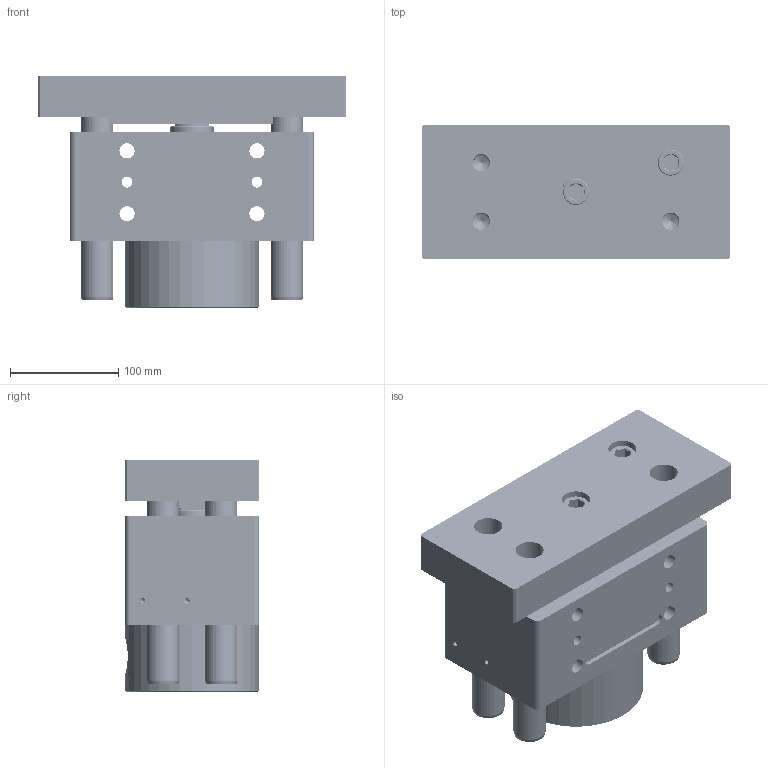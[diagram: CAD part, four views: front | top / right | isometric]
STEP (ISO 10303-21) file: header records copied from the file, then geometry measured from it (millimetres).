
FILE_DESCRIPTION(/* description */ (''),/* implementation_level */ '2;1');
FILE_NAME(/* name */ 'KBSE_63_40_50.step',/* time_stamp */ '2022-12-03T20:21:10+03:00',/* author */ (''),/* organization */ (''),/* preprocessor_version */ 'ST-DEVELOPER v19.2',/* originating_system */ 'Autodesk Translation Framework v11.17.0.187',/* authorisation */ '');
FILE_SCHEMA (('AUTOMOTIVE_DESIGN { 1 0 10303 214 3 1 1 }'));
Products named in the file (30): BSE 250.63_40.02.4.201.050(DH=0(0)); ARKA_KAPAK_Ø63; Ø30_K_MİL (1); Ø30_K_MİL; Front plate for BSE250.63/404(40); Anti rotating back plate for BSE250.63/40.Fehler in IDAF(40); Kopf f. BSE250.63/40.0x.4 - 1.497 1 - 40; Ø40_K_MİL; Ø63_HON_BORU; Bileşen1; Ø63_KEÇE_YATAĞI; K15-063x052x4.2; K69-63X58X9_7; KO-30X2; 96144A264_Fine-Thread Alloy Steel Socket Head Screw; Ø30_BRONZ_YATAK; Ø30_BRONZ_YATAK_1; Ø30_BRONZ_YATAK_2; Ø30_BRONZ_YATAK_3; Ø30_BRONZ_YATAK_4; Ø30_BRONZ_YATAK_5; Ø30_BRONZ_YATAK_6; Ø30_BRONZ_YATAK_7; Bileşen1_1; K06-30X38_6X5_3X7; KO-71X2_5; 96144A330_Fine-Thread Alloy Steel Socket Head Screw; Ø40_PAP_BURÇ; K06-40X48_6X5_3X7(K06_040); K22-40X50X7
Assembly tree (50 placements, depth 3):
  BSE 250.63_40.02.4.201.050(DH=0(0))
    ARKA_KAPAK_Ø63
    Ø30_K_MİL  x3
    Ø30_K_MİL (1)
    Front plate for BSE250.63/404(40)
    Anti rotating back plate for BSE250.63/40.Fehler in IDAF(40)
    Kopf f. BSE250.63/40.0x.4 - 1.497 1 - 40
    Ø40_K_MİL
    Ø63_HON_BORU
      Bileşen1
    Ø63_KEÇE_YATAĞI
      K15-063x052x4.2
      K69-63X58X9_7
      KO-30X2
    KO-71X2_5  x2
    96144A264_Fine-Thread Alloy Steel Socket Head Screw  x4
    Ø30_BRONZ_YATAK
      Bileşen1_1
      K06-30X38_6X5_3X7
    Ø30_BRONZ_YATAK_1
      Bileşen1_1
      K06-30X38_6X5_3X7
    Ø30_BRONZ_YATAK_2
      Bileşen1_1
      K06-30X38_6X5_3X7
    Ø30_BRONZ_YATAK_3
      Bileşen1_1
      K06-30X38_6X5_3X7
    Ø30_BRONZ_YATAK_4
      Bileşen1_1
      K06-30X38_6X5_3X7
    Ø30_BRONZ_YATAK_5
      Bileşen1_1
      K06-30X38_6X5_3X7
    Ø30_BRONZ_YATAK_6
      Bileşen1_1
      K06-30X38_6X5_3X7
    Ø30_BRONZ_YATAK_7
      Bileşen1_1
      K06-30X38_6X5_3X7
    96144A330_Fine-Thread Alloy Steel Socket Head Screw  x2
    Ø40_PAP_BURÇ
    K06-40X48_6X5_3X7(K06_040)
    K22-40X50X7
Bounding box: 285 x 124 x 214 mm (x, y, z)
Volume: 4805737.1 mm3; surface area: 681474.4 mm2
Topology: 42 solids, 42 shells, 1711 faces, 4206 edges, 2730 vertices
Faces by surface type: cylinder 625, plane 480, bspline 344, cone 254, torus 8
Full cylindrical faces by diameter (mm): 4.134 x4, 8.526 x4, 8.701 x124, 10 x130, 10.5 x4, 11 x2, 13.835 x4, 14 x4, 14.023 x1, 14.051 x50, 16 x56, 16.1 x4, 16.5 x4, 18 x1, 18.526 x1, 18.631 x2, 19.85 x1, 20 x4, 24 x2, 26 x5, 30 x21, 30.5 x2, 31.6 x8, 33 x1, 33.2 x8, 34 x1, 38.6 x16, 40 x2, 40.1 x2, 40.6 x1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
Entity records: 48582 total; most frequent: CARTESIAN_POINT 23879, ORIENTED_EDGE 5438, DIRECTION 3966, EDGE_CURVE 2719, VERTEX_POINT 1791, AXIS2_PLACEMENT_3D 1372, EDGE_LOOP 1266, LINE 1222
